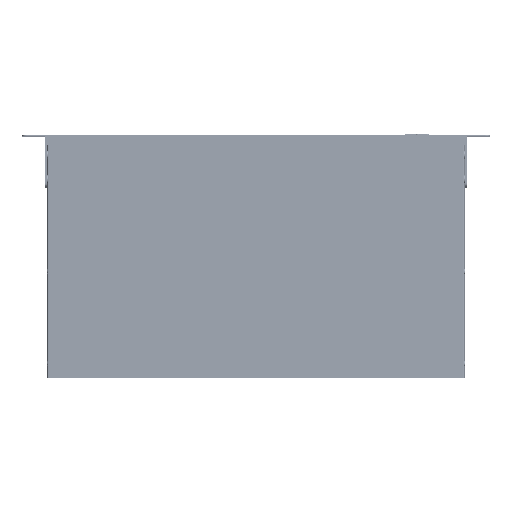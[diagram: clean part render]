
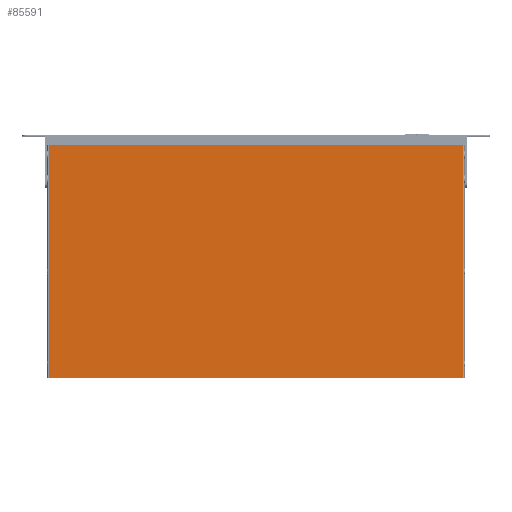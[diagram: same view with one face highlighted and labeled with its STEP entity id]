
A CAD part, top view. The second image highlights one B-rep face of the part: STEP entity #85591.
In plain terms, the highlighted planar face has unit normal (0, 0, 1).
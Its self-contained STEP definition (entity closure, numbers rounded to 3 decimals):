
#8479 = DIRECTION ( 'NONE',  ( -1., 0., 0. ) ) ;
#21728 = LINE ( 'NONE', #268264, #413867 ) ;
#40762 = EDGE_CURVE ( 'NONE', #292298, #110291, #21728, .T. ) ;
#74382 = AXIS2_PLACEMENT_3D ( 'NONE', #261216, #422687, #327636 ) ;
#85591 = ADVANCED_FACE ( 'NONE', ( #393064 ), #391018, .F. ) ;
#103096 = ORIENTED_EDGE ( 'NONE', *, *, #277671, .T. ) ;
#110291 = VERTEX_POINT ( 'NONE', #342110 ) ;
#129987 = DIRECTION ( 'NONE',  ( 0., -1., 0. ) ) ;
#138358 = CARTESIAN_POINT ( 'NONE',  ( -214.65, 120., 0. ) ) ;
#138807 = EDGE_CURVE ( 'NONE', #401958, #142025, #326248, .T. ) ;
#142025 = VERTEX_POINT ( 'NONE', #289957 ) ;
#155829 = VECTOR ( 'NONE', #129987, 1000. ) ;
#158848 = CARTESIAN_POINT ( 'NONE',  ( 213.65, 0., 0. ) ) ;
#239771 = ORIENTED_EDGE ( 'NONE', *, *, #138807, .F. ) ;
#261216 = CARTESIAN_POINT ( 'NONE',  ( 0., 0., 0. ) ) ;
#263863 = CARTESIAN_POINT ( 'NONE',  ( -213.65, -120., 0. ) ) ;
#265430 = DIRECTION ( 'NONE',  ( 0., 1., 0. ) ) ;
#268264 = CARTESIAN_POINT ( 'NONE',  ( -213.65, 0., 0. ) ) ;
#277671 = EDGE_CURVE ( 'NONE', #292298, #142025, #334966, .T. ) ;
#278366 = VECTOR ( 'NONE', #305522, 1000. ) ;
#289957 = CARTESIAN_POINT ( 'NONE',  ( 213.65, -120., 0. ) ) ;
#292298 = VERTEX_POINT ( 'NONE', #263863 ) ;
#292693 = CARTESIAN_POINT ( 'NONE',  ( -214.65, -120., 0. ) ) ;
#298507 = VECTOR ( 'NONE', #8479, 1000. ) ;
#303259 = ORIENTED_EDGE ( 'NONE', *, *, #40762, .F. ) ;
#305522 = DIRECTION ( 'NONE',  ( 1., 0., 0. ) ) ;
#324154 = LINE ( 'NONE', #138358, #298507 ) ;
#325318 = EDGE_CURVE ( 'NONE', #401958, #110291, #324154, .T. ) ;
#326248 = LINE ( 'NONE', #158848, #155829 ) ;
#327636 = DIRECTION ( 'NONE',  ( -1., 0., 0. ) ) ;
#334966 = LINE ( 'NONE', #292693, #278366 ) ;
#342110 = CARTESIAN_POINT ( 'NONE',  ( -213.65, 120., 0. ) ) ;
#385330 = ORIENTED_EDGE ( 'NONE', *, *, #325318, .T. ) ;
#388569 = EDGE_LOOP ( 'NONE', ( #239771, #385330, #303259, #103096 ) ) ;
#391018 = PLANE ( 'NONE',  #74382 ) ;
#393064 = FACE_OUTER_BOUND ( 'NONE', #388569, .T. ) ;
#401958 = VERTEX_POINT ( 'NONE', #424239 ) ;
#413867 = VECTOR ( 'NONE', #265430, 1000. ) ;
#422687 = DIRECTION ( 'NONE',  ( 0., 0., -1. ) ) ;
#424239 = CARTESIAN_POINT ( 'NONE',  ( 213.65, 120., 0. ) ) ;
